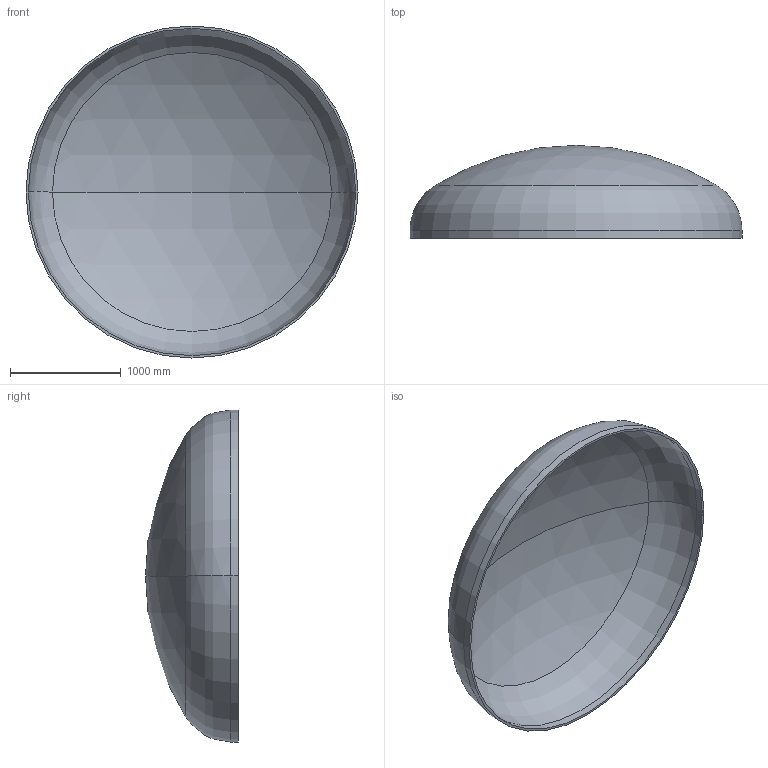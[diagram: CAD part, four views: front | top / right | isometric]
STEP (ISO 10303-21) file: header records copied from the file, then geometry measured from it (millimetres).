
FILE_DESCRIPTION (( 'STEP AP203' ), '1' );
FILE_NAME ('DIN 28013 Korbbogenform_-_Boden DIN 28013 - 3000 x 70 - I - s=21.step', '2016-07-01T17:34:47', ( '' ), ( '' ), 'SwSTEP 2.0', 'SolidWorks 2013', '' );
FILE_SCHEMA (( 'CONFIG_CONTROL_DESIGN' ));
Length unit declared in the file: millimetre
Products named in the file (1): DIN 28013 Korbbogenform_-_Boden DIN 28013 - 3000 x 70 - I - s=21
Bounding box: 3000 x 840.17 x 3000 mm (x, y, z)
Volume: 217281391.4 mm3; surface area: 20890916.4 mm2
Topology: 1 solids, 1 shells, 13 faces, 24 edges, 14 vertices
Faces by surface type: torus 4, cylinder 4, sphere 4, plane 1
Entity records: 407 total; most frequent: DIRECTION 72, CARTESIAN_POINT 52, ORIENTED_EDGE 48, AXIS2_PLACEMENT_3D 34, EDGE_CURVE 24, CIRCLE 20, VERTEX_POINT 14, EDGE_LOOP 14
